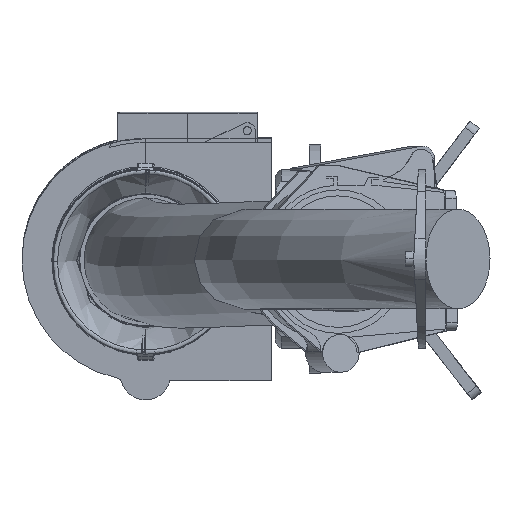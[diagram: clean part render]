
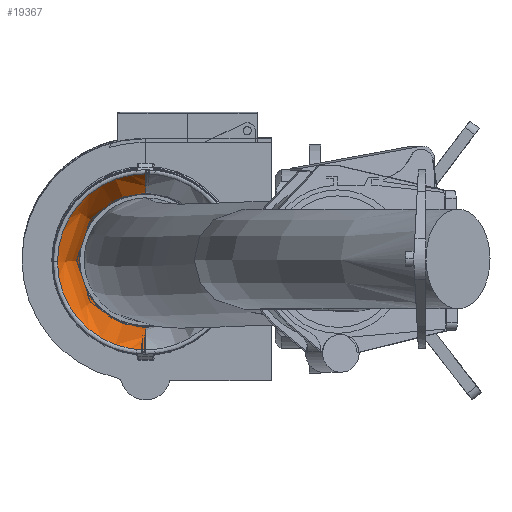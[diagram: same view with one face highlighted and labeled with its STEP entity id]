
A CAD part, left-side view. The second image highlights one B-rep face of the part: STEP entity #19367.
In plain terms, the highlighted free-form (B-spline) face has degree [3, 3] with [9, 4] control points.
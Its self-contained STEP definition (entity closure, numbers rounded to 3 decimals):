
#1232 = CARTESIAN_POINT ( 'NONE',  ( 1623.223, 229.5, 1838.394 ) ) ;
#1726 = CARTESIAN_POINT ( 'NONE',  ( 1644.829, 296.369, 1832.74 ) ) ;
#2420 = DIRECTION ( 'NONE',  ( 0., 1., 0. ) ) ;
#2704 = ORIENTED_EDGE ( 'NONE', *, *, #17365, .F. ) ;
#3236 = AXIS2_PLACEMENT_3D ( 'NONE', #32366, #11852, #5142 ) ;
#3327 = ORIENTED_EDGE ( 'NONE', *, *, #4545, .F. ) ;
#4203 = CARTESIAN_POINT ( 'NONE',  ( 1641.93, 229.5, 1832.977 ) ) ;
#4545 = EDGE_CURVE ( 'NONE', #29141, #33956, #36639, .T. ) ;
#4800 = CARTESIAN_POINT ( 'NONE',  ( 1616.165, 229.5, 1842.7 ) ) ;
#4899 = CARTESIAN_POINT ( 'NONE',  ( 1643.828, 297.006, 1765.498 ) ) ;
#5142 = DIRECTION ( 'NONE',  ( 0., 1., 0. ) ) ;
#5278 = EDGE_CURVE ( 'NONE', #37972, #36832, #29825, .T. ) ;
#5428 = CARTESIAN_POINT ( 'NONE',  ( 1647.208, 262.824, 1799.359 ) ) ;
#5655 =( BOUNDED_SURFACE ( )  B_SPLINE_SURFACE ( 3, 3, ( 
 ( #31963, #26587, #28792, #10661 ),
 ( #22675, #7700, #1726, #11043 ),
 ( #22849, #4899, #23044, #29003 ),
 ( #14013, #8068, #20696, #35699 ),
 ( #15400, #30157, #15220, #24398 ),
 ( #14990, #17743, #8875, #26980 ),
 ( #24207, #27180, #18351, #11816 ),
 ( #6290, #23623, #5890, #9051 ),
 ( #6086, #32709, #17939, #21293 ) ),
 .UNSPECIFIED., .F., .F., .T. ) 
 B_SPLINE_SURFACE_WITH_KNOTS ( ( 4, 1, 1, 1, 1, 1, 4 ),
 ( 4, 4 ),
 ( 0., 0.125, 0.25, 0.5, 0.75, 0.875, 0.955 ),
 ( 0., 1. ),
 .UNSPECIFIED. ) 
 GEOMETRIC_REPRESENTATION_ITEM ( )  RATIONAL_B_SPLINE_SURFACE ( (
 ( 1., 0.333, 0.333, 1.),
 ( 1., 0.333, 0.333, 1.),
 ( 1., 0.333, 0.333, 1.),
 ( 1., 0.333, 0.333, 1.),
 ( 1., 0.333, 0.333, 1.),
 ( 1., 0.333, 0.333, 1.),
 ( 1., 0.333, 0.333, 1.),
 ( 1., 0.333, 0.333, 1.),
 ( 1., 0.333, 0.333, 1.) ) ) 
 REPRESENTATION_ITEM ( '' )  SURFACE ( )  );
#5890 = CARTESIAN_POINT ( 'NONE',  ( 1616.904, 316.83, 1842.189 ) ) ;
#6086 = CARTESIAN_POINT ( 'NONE',  ( 1618.65, 229.5, 1754.342 ) ) ;
#6263 = EDGE_LOOP ( 'NONE', ( #2704, #23694, #30639, #19915, #34887, #3327 ) ) ;
#6290 = CARTESIAN_POINT ( 'NONE',  ( 1619.358, 229.5, 1754.894 ) ) ;
#7389 = CARTESIAN_POINT ( 'NONE',  ( 1636.326, 229.5, 1833.834 ) ) ;
#7594 = AXIS2_PLACEMENT_3D ( 'NONE', #38714, #31983, #29585 ) ;
#7597 = CARTESIAN_POINT ( 'NONE',  ( 1644.829, 229.5, 1832.74 ) ) ;
#7700 = CARTESIAN_POINT ( 'NONE',  ( 1646.709, 296.369, 1765.898 ) ) ;
#7896 = CARTESIAN_POINT ( 'NONE',  ( 1648.145, 229.5, 1766.048 ) ) ;
#8023 = DIRECTION ( 'NONE',  ( 0., 1., 0. ) ) ;
#8068 = CARTESIAN_POINT ( 'NONE',  ( 1638.28, 299.035, 1764.327 ) ) ;
#8485 = FACE_OUTER_BOUND ( 'NONE', #6263, .T. ) ;
#8875 = CARTESIAN_POINT ( 'NONE',  ( 1623.223, 308.886, 1838.394 ) ) ;
#9051 = CARTESIAN_POINT ( 'NONE',  ( 1616.904, 229.5, 1842.189 ) ) ;
#10551 = CARTESIAN_POINT ( 'NONE',  ( 1646.271, 229.5, 1832.67 ) ) ;
#10661 = CARTESIAN_POINT ( 'NONE',  ( 1646.271, 229.5, 1832.67 ) ) ;
#11043 = CARTESIAN_POINT ( 'NONE',  ( 1644.829, 229.5, 1832.74 ) ) ;
#11816 = CARTESIAN_POINT ( 'NONE',  ( 1618.832, 229.5, 1840.919 ) ) ;
#11852 = DIRECTION ( 'NONE',  ( 1., 0., 0.028 ) ) ;
#14013 = CARTESIAN_POINT ( 'NONE',  ( 1638.28, 229.5, 1764.327 ) ) ;
#14990 = CARTESIAN_POINT ( 'NONE',  ( 1625.454, 229.5, 1759.039 ) ) ;
#15207 = CARTESIAN_POINT ( 'NONE',  ( 1617.408, 273.696, 1798.521 ) ) ;
#15220 = CARTESIAN_POINT ( 'NONE',  ( 1629.578, 303.004, 1835.63 ) ) ;
#15400 = CARTESIAN_POINT ( 'NONE',  ( 1631.644, 229.5, 1762.155 ) ) ;
#15594 = EDGE_CURVE ( 'NONE', #33956, #37541, #37310, .T. ) ;
#15853 = AXIS2_PLACEMENT_3D ( 'NONE', #31300, #37450, #8023 ) ;
#16754 = CARTESIAN_POINT ( 'NONE',  ( 1643.828, 229.5, 1765.498 ) ) ;
#17177 = B_SPLINE_CURVE_WITH_KNOTS ( 'NONE', 3,
 ( #25185, #37079, #16754, #28137, #31515, #19685, #19499, #31306, #34682 ),
 .UNSPECIFIED., .F., .F.,
 ( 4, 1, 1, 1, 1, 1, 4 ),
 ( 0., 0.125, 0.25, 0.5, 0.75, 0.875, 0.955 ),
 .UNSPECIFIED. ) ;
#17365 = EDGE_CURVE ( 'NONE', #21099, #29141, #17177, .T. ) ;
#17408 = B_SPLINE_CURVE_WITH_KNOTS ( 'NONE', 3,
 ( #10551, #7597, #4203, #7389, #31639, #1232, #19814, #31846, #4800 ),
 .UNSPECIFIED., .F., .F.,
 ( 4, 1, 1, 1, 1, 1, 4 ),
 ( 0., 0.125, 0.25, 0.5, 0.75, 0.875, 0.955 ),
 .UNSPECIFIED. ) ;
#17743 = CARTESIAN_POINT ( 'NONE',  ( 1625.454, 308.886, 1759.039 ) ) ;
#17939 = CARTESIAN_POINT ( 'NONE',  ( 1616.165, 317.892, 1842.7 ) ) ;
#18351 = CARTESIAN_POINT ( 'NONE',  ( 1618.832, 314.183, 1840.919 ) ) ;
#19367 = ADVANCED_FACE ( 'NONE', ( #8485 ), #5655, .F. ) ;
#19499 = CARTESIAN_POINT ( 'NONE',  ( 1621.212, 229.5, 1756.27 ) ) ;
#19685 = CARTESIAN_POINT ( 'NONE',  ( 1625.454, 229.5, 1759.039 ) ) ;
#19814 = CARTESIAN_POINT ( 'NONE',  ( 1618.832, 229.5, 1840.919 ) ) ;
#19915 = ORIENTED_EDGE ( 'NONE', *, *, #28054, .T. ) ;
#20696 = CARTESIAN_POINT ( 'NONE',  ( 1636.326, 299.035, 1833.834 ) ) ;
#21099 = VERTEX_POINT ( 'NONE', #7896 ) ;
#21293 = CARTESIAN_POINT ( 'NONE',  ( 1616.165, 229.5, 1842.7 ) ) ;
#22117 = EDGE_CURVE ( 'NONE', #36832, #21099, #24554, .T. ) ;
#22675 = CARTESIAN_POINT ( 'NONE',  ( 1646.709, 229.5, 1765.898 ) ) ;
#22849 = CARTESIAN_POINT ( 'NONE',  ( 1643.828, 229.5, 1765.498 ) ) ;
#23044 = CARTESIAN_POINT ( 'NONE',  ( 1641.93, 297.006, 1832.977 ) ) ;
#23623 = CARTESIAN_POINT ( 'NONE',  ( 1619.358, 316.83, 1754.894 ) ) ;
#23694 = ORIENTED_EDGE ( 'NONE', *, *, #22117, .F. ) ;
#24132 = DIRECTION ( 'NONE',  ( -1., 0., -0.028 ) ) ;
#24207 = CARTESIAN_POINT ( 'NONE',  ( 1621.212, 229.5, 1756.27 ) ) ;
#24398 = CARTESIAN_POINT ( 'NONE',  ( 1629.578, 229.5, 1835.63 ) ) ;
#24554 = CIRCLE ( 'NONE', #7594, 33.324 ) ;
#25185 = CARTESIAN_POINT ( 'NONE',  ( 1648.145, 229.5, 1766.048 ) ) ;
#26305 = CARTESIAN_POINT ( 'NONE',  ( 1618.65, 229.5, 1754.342 ) ) ;
#26587 = CARTESIAN_POINT ( 'NONE',  ( 1648.145, 296.148, 1766.048 ) ) ;
#26714 = CARTESIAN_POINT ( 'NONE',  ( 1647.208, 229.5, 1799.359 ) ) ;
#26980 = CARTESIAN_POINT ( 'NONE',  ( 1623.223, 229.5, 1838.394 ) ) ;
#27180 = CARTESIAN_POINT ( 'NONE',  ( 1621.212, 314.183, 1756.27 ) ) ;
#28054 = EDGE_CURVE ( 'NONE', #37972, #37541, #17408, .T. ) ;
#28137 = CARTESIAN_POINT ( 'NONE',  ( 1638.28, 229.5, 1764.327 ) ) ;
#28475 = CARTESIAN_POINT ( 'NONE',  ( 1616.165, 229.5, 1842.7 ) ) ;
#28584 = AXIS2_PLACEMENT_3D ( 'NONE', #26714, #24132, #2420 ) ;
#28792 = CARTESIAN_POINT ( 'NONE',  ( 1646.271, 296.148, 1832.67 ) ) ;
#29003 = CARTESIAN_POINT ( 'NONE',  ( 1641.93, 229.5, 1832.977 ) ) ;
#29141 = VERTEX_POINT ( 'NONE', #26305 ) ;
#29585 = DIRECTION ( 'NONE',  ( 0., 1., 0. ) ) ;
#29825 = CIRCLE ( 'NONE', #28584, 33.324 ) ;
#30157 = CARTESIAN_POINT ( 'NONE',  ( 1631.644, 303.004, 1762.155 ) ) ;
#30639 = ORIENTED_EDGE ( 'NONE', *, *, #5278, .F. ) ;
#31300 = CARTESIAN_POINT ( 'NONE',  ( 1617.408, 229.5, 1798.521 ) ) ;
#31306 = CARTESIAN_POINT ( 'NONE',  ( 1619.358, 229.5, 1754.894 ) ) ;
#31515 = CARTESIAN_POINT ( 'NONE',  ( 1631.644, 229.5, 1762.155 ) ) ;
#31639 = CARTESIAN_POINT ( 'NONE',  ( 1629.578, 229.5, 1835.63 ) ) ;
#31783 = CARTESIAN_POINT ( 'NONE',  ( 1646.271, 229.5, 1832.67 ) ) ;
#31846 = CARTESIAN_POINT ( 'NONE',  ( 1616.904, 229.5, 1842.189 ) ) ;
#31963 = CARTESIAN_POINT ( 'NONE',  ( 1648.145, 229.5, 1766.048 ) ) ;
#31983 = DIRECTION ( 'NONE',  ( -1., 0., -0.028 ) ) ;
#32366 = CARTESIAN_POINT ( 'NONE',  ( 1617.408, 229.5, 1798.521 ) ) ;
#32709 = CARTESIAN_POINT ( 'NONE',  ( 1618.65, 317.892, 1754.342 ) ) ;
#33956 = VERTEX_POINT ( 'NONE', #15207 ) ;
#34682 = CARTESIAN_POINT ( 'NONE',  ( 1618.65, 229.5, 1754.342 ) ) ;
#34887 = ORIENTED_EDGE ( 'NONE', *, *, #15594, .F. ) ;
#35699 = CARTESIAN_POINT ( 'NONE',  ( 1636.326, 229.5, 1833.834 ) ) ;
#36639 = CIRCLE ( 'NONE', #15853, 44.196 ) ;
#36832 = VERTEX_POINT ( 'NONE', #5428 ) ;
#37079 = CARTESIAN_POINT ( 'NONE',  ( 1646.709, 229.5, 1765.898 ) ) ;
#37310 = CIRCLE ( 'NONE', #3236, 44.196 ) ;
#37450 = DIRECTION ( 'NONE',  ( 1., 0., 0.028 ) ) ;
#37541 = VERTEX_POINT ( 'NONE', #28475 ) ;
#37972 = VERTEX_POINT ( 'NONE', #31783 ) ;
#38714 = CARTESIAN_POINT ( 'NONE',  ( 1647.208, 229.5, 1799.359 ) ) ;
